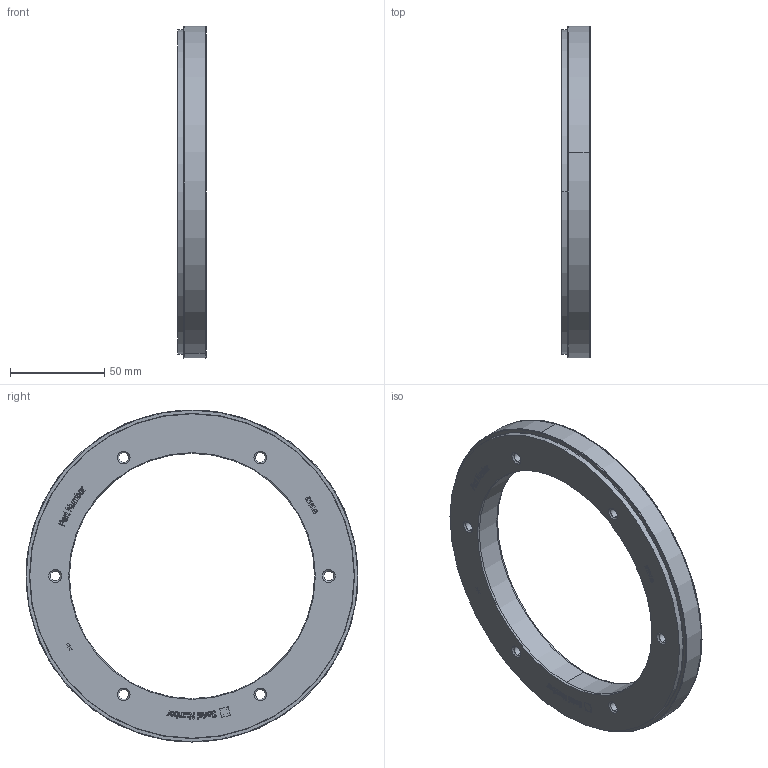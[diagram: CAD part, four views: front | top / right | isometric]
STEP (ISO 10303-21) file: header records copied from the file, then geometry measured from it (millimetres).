
FILE_DESCRIPTION (( 'STEP AP214' ), '1' );
FILE_NAME ('MR176X130.STEP', '2021-09-21T13:51:39', ( '' ), ( '' ), 'SwSTEP 2.0', 'SolidWorks 2020', '' );
FILE_SCHEMA (( 'AUTOMOTIVE_DESIGN' ));
Length unit declared in the file: millimetre
Products named in the file (1): MR176X130
Bounding box: 15 x 175.97 x 176 mm (x, y, z)
Volume: 160902.3 mm3; surface area: 37414.4 mm2
Topology: 1 solids, 1 shells, 465 faces, 1224 edges, 806 vertices
Faces by surface type: plane 251, bspline 147, cylinder 33, cone 28, torus 6
Entity records: 26167 total; most frequent: CARTESIAN_POINT 10451, ORIENTED_EDGE 2448, DIRECTION 1678, EDGE_CURVE 1224, LINE 820, VECTOR 820, VERTEX_POINT 806, EDGE_LOOP 524
